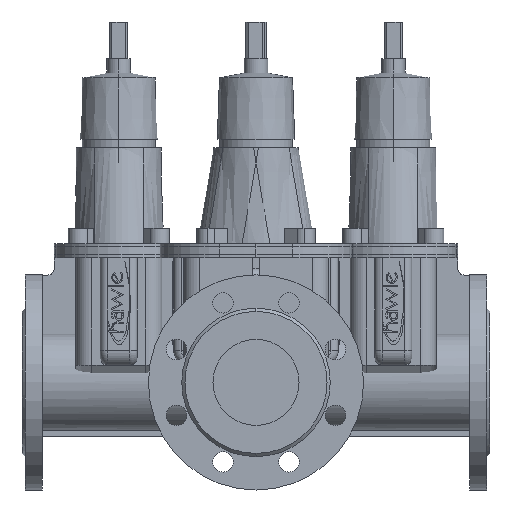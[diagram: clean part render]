
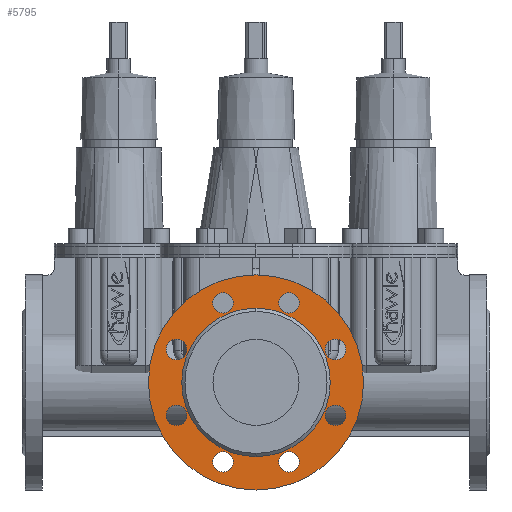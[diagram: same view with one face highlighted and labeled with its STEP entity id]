
A CAD part, left-side view. The second image highlights one B-rep face of the part: STEP entity #5795.
In plain terms, the highlighted planar face has unit normal (-1, 0, 0).
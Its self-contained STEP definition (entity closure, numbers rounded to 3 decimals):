
#5795=ADVANCED_FACE('',(#11086,#11087,#11088,#11089,#11090,#11091,#11092,#11093,#11094,#11095),#11096,.F.);
#11086=FACE_BOUND('',#17828,.T.);
#11087=FACE_BOUND('',#17829,.T.);
#11088=FACE_BOUND('',#17830,.T.);
#11089=FACE_BOUND('',#17831,.T.);
#11090=FACE_BOUND('',#17832,.T.);
#11091=FACE_BOUND('',#17833,.T.);
#11092=FACE_BOUND('',#17834,.T.);
#11093=FACE_BOUND('',#17835,.T.);
#11094=FACE_BOUND('',#17836,.T.);
#11095=FACE_OUTER_BOUND('',#17837,.T.);
#11096=PLANE('',#17838);
#17828=EDGE_LOOP('',(#29182,#29183));
#17829=EDGE_LOOP('',(#29184,#29185));
#17830=EDGE_LOOP('',(#29186,#29187));
#17831=EDGE_LOOP('',(#29188,#29189));
#17832=EDGE_LOOP('',(#29190,#29191));
#17833=EDGE_LOOP('',(#29192,#29193));
#17834=EDGE_LOOP('',(#29194,#29195));
#17835=EDGE_LOOP('',(#29196,#29197));
#17836=EDGE_LOOP('',(#29198,#29199));
#17837=EDGE_LOOP('',(#29200,#29201));
#17838=AXIS2_PLACEMENT_3D('',#29202,#29203,#29204);
#29182=ORIENTED_EDGE('',*,*,#38145,.T.);
#29183=ORIENTED_EDGE('',*,*,#34900,.T.);
#29184=ORIENTED_EDGE('',*,*,#38739,.T.);
#29185=ORIENTED_EDGE('',*,*,#35358,.T.);
#29186=ORIENTED_EDGE('',*,*,#38740,.T.);
#29187=ORIENTED_EDGE('',*,*,#37147,.T.);
#29188=ORIENTED_EDGE('',*,*,#35122,.T.);
#29189=ORIENTED_EDGE('',*,*,#35646,.T.);
#29190=ORIENTED_EDGE('',*,*,#34684,.T.);
#29191=ORIENTED_EDGE('',*,*,#38741,.T.);
#29192=ORIENTED_EDGE('',*,*,#35644,.T.);
#29193=ORIENTED_EDGE('',*,*,#38742,.T.);
#29194=ORIENTED_EDGE('',*,*,#37760,.T.);
#29195=ORIENTED_EDGE('',*,*,#38534,.T.);
#29196=ORIENTED_EDGE('',*,*,#37775,.T.);
#29197=ORIENTED_EDGE('',*,*,#38311,.T.);
#29198=ORIENTED_EDGE('',*,*,#38743,.T.);
#29199=ORIENTED_EDGE('',*,*,#38744,.T.);
#29200=ORIENTED_EDGE('',*,*,#38292,.F.);
#29201=ORIENTED_EDGE('',*,*,#37770,.F.);
#29202=CARTESIAN_POINT('',(3.0,0.0,0.));
#29203=DIRECTION('',(1.0,0.0,0.));
#29204=DIRECTION('',(0.,0.0,-1.0));
#34684=EDGE_CURVE('',#40604,#40608,#40610,.T.);
#34900=EDGE_CURVE('',#40990,#40988,#40991,.T.);
#35122=EDGE_CURVE('',#41365,#41369,#41371,.T.);
#35358=EDGE_CURVE('',#41781,#41779,#41782,.T.);
#35644=EDGE_CURVE('',#42258,#42262,#42264,.T.);
#35646=EDGE_CURVE('',#41369,#41365,#42266,.T.);
#37147=EDGE_CURVE('',#44607,#44605,#44608,.T.);
#37760=EDGE_CURVE('',#45485,#45489,#45491,.T.);
#37770=EDGE_CURVE('',#45503,#45498,#45505,.T.);
#37775=EDGE_CURVE('',#45508,#45512,#45514,.T.);
#38145=EDGE_CURVE('',#40988,#40990,#45997,.T.);
#38292=EDGE_CURVE('',#45498,#45503,#46183,.T.);
#38311=EDGE_CURVE('',#45512,#45508,#46206,.T.);
#38534=EDGE_CURVE('',#45489,#45485,#46494,.T.);
#38739=EDGE_CURVE('',#41779,#41781,#46752,.T.);
#38740=EDGE_CURVE('',#44605,#44607,#46753,.T.);
#38741=EDGE_CURVE('',#40608,#40604,#46754,.T.);
#38742=EDGE_CURVE('',#42262,#42258,#46755,.T.);
#38743=EDGE_CURVE('',#46756,#46757,#46758,.T.);
#38744=EDGE_CURVE('',#46757,#46756,#46759,.T.);
#40604=VERTEX_POINT('',#48950);
#40608=VERTEX_POINT('',#48955);
#40610=CIRCLE('',#48958,9.5);
#40988=VERTEX_POINT('',#49446);
#40990=VERTEX_POINT('',#49449);
#40991=CIRCLE('',#49450,9.5);
#41365=VERTEX_POINT('',#49930);
#41369=VERTEX_POINT('',#49935);
#41371=CIRCLE('',#49938,9.5);
#41779=VERTEX_POINT('',#50470);
#41781=VERTEX_POINT('',#50473);
#41782=CIRCLE('',#50474,9.5);
#42258=VERTEX_POINT('',#51086);
#42262=VERTEX_POINT('',#51091);
#42264=CIRCLE('',#51094,9.5);
#42266=CIRCLE('',#51096,9.5);
#44605=VERTEX_POINT('',#54145);
#44607=VERTEX_POINT('',#54148);
#44608=CIRCLE('',#54149,9.5);
#45485=VERTEX_POINT('',#55304);
#45489=VERTEX_POINT('',#55309);
#45491=CIRCLE('',#55312,9.5);
#45498=VERTEX_POINT('',#55320);
#45503=VERTEX_POINT('',#55326);
#45505=CIRCLE('',#55329,100.0);
#45508=VERTEX_POINT('',#55332);
#45512=VERTEX_POINT('',#55337);
#45514=CIRCLE('',#55340,9.5);
#45997=CIRCLE('',#55990,9.5);
#46183=CIRCLE('',#56226,100.0);
#46206=CIRCLE('',#56256,9.5);
#46494=CIRCLE('',#56643,9.5);
#46752=CIRCLE('',#56982,9.5);
#46753=CIRCLE('',#56983,9.5);
#46754=CIRCLE('',#56984,9.5);
#46755=CIRCLE('',#56985,9.5);
#46756=VERTEX_POINT('',#56986);
#46757=VERTEX_POINT('',#56987);
#46758=CIRCLE('',#56988,40.0);
#46759=CIRCLE('',#56989,40.0);
#48950=CARTESIAN_POINT('',(3.0,-73.91,-40.115));
#48955=CARTESIAN_POINT('',(3.0,-73.91,-21.115));
#48958=AXIS2_PLACEMENT_3D('',#59040,#59041,#59042);
#49446=CARTESIAN_POINT('',(3.0,73.91,21.115));
#49449=CARTESIAN_POINT('',(3.0,73.91,40.115));
#49450=AXIS2_PLACEMENT_3D('',#59337,#59338,#59339);
#49930=CARTESIAN_POINT('',(3.0,-30.615,-83.41));
#49935=CARTESIAN_POINT('',(3.0,-30.615,-64.41));
#49938=AXIS2_PLACEMENT_3D('',#59637,#59638,#59639);
#50470=CARTESIAN_POINT('',(3.0,73.91,-40.115));
#50473=CARTESIAN_POINT('',(3.0,73.91,-21.115));
#50474=AXIS2_PLACEMENT_3D('',#59954,#59955,#59956);
#51086=CARTESIAN_POINT('',(3.0,-73.91,21.115));
#51091=CARTESIAN_POINT('',(3.0,-73.91,40.115));
#51094=AXIS2_PLACEMENT_3D('',#60353,#60354,#60355);
#51096=AXIS2_PLACEMENT_3D('',#60356,#60357,#60358);
#54145=CARTESIAN_POINT('',(3.0,30.615,-83.41));
#54148=CARTESIAN_POINT('',(3.0,30.615,-64.41));
#54149=AXIS2_PLACEMENT_3D('',#62312,#62313,#62314);
#55304=CARTESIAN_POINT('',(3.0,-30.615,64.41));
#55309=CARTESIAN_POINT('',(3.,-30.615,83.41));
#55312=AXIS2_PLACEMENT_3D('',#63099,#63100,#63101);
#55320=CARTESIAN_POINT('',(3.,0.0,-100.0));
#55326=CARTESIAN_POINT('',(3.,0.,100.0));
#55329=AXIS2_PLACEMENT_3D('',#63114,#63115,#63116);
#55332=CARTESIAN_POINT('',(3.0,30.615,64.41));
#55337=CARTESIAN_POINT('',(3.,30.615,83.41));
#55340=AXIS2_PLACEMENT_3D('',#63122,#63123,#63124);
#55990=AXIS2_PLACEMENT_3D('',#63523,#63524,#63525);
#56226=AXIS2_PLACEMENT_3D('',#63708,#63709,#63710);
#56256=AXIS2_PLACEMENT_3D('',#63733,#63734,#63735);
#56643=AXIS2_PLACEMENT_3D('',#63970,#63971,#63972);
#56982=AXIS2_PLACEMENT_3D('',#64204,#64205,#64206);
#56983=AXIS2_PLACEMENT_3D('',#64207,#64208,#64209);
#56984=AXIS2_PLACEMENT_3D('',#64210,#64211,#64212);
#56985=AXIS2_PLACEMENT_3D('',#64213,#64214,#64215);
#56986=CARTESIAN_POINT('',(3.0,0.0,-40.0));
#56987=CARTESIAN_POINT('',(3.0,0.,40.0));
#56988=AXIS2_PLACEMENT_3D('',#64216,#64217,#64218);
#56989=AXIS2_PLACEMENT_3D('',#64219,#64220,#64221);
#59040=CARTESIAN_POINT('',(3.0,-73.91,-30.615));
#59041=DIRECTION('',(1.0,0.0,0.));
#59042=DIRECTION('',(0.,0.0,-1.0));
#59337=CARTESIAN_POINT('',(3.0,73.91,30.615));
#59338=DIRECTION('',(1.0,0.0,0.));
#59339=DIRECTION('',(0.,0.0,-1.0));
#59637=CARTESIAN_POINT('',(3.0,-30.615,-73.91));
#59638=DIRECTION('',(1.0,0.0,0.));
#59639=DIRECTION('',(0.,0.0,-1.0));
#59954=CARTESIAN_POINT('',(3.0,73.91,-30.615));
#59955=DIRECTION('',(1.0,0.0,0.));
#59956=DIRECTION('',(0.,0.0,-1.0));
#60353=CARTESIAN_POINT('',(3.0,-73.91,30.615));
#60354=DIRECTION('',(1.0,0.0,0.));
#60355=DIRECTION('',(0.,0.0,-1.0));
#60356=CARTESIAN_POINT('',(3.0,-30.615,-73.91));
#60357=DIRECTION('',(1.0,0.0,0.));
#60358=DIRECTION('',(0.,0.0,-1.0));
#62312=CARTESIAN_POINT('',(3.0,30.615,-73.91));
#62313=DIRECTION('',(1.0,0.0,0.));
#62314=DIRECTION('',(0.,0.0,-1.0));
#63099=CARTESIAN_POINT('',(3.0,-30.615,73.91));
#63100=DIRECTION('',(1.0,0.0,0.));
#63101=DIRECTION('',(0.,0.0,-1.0));
#63114=CARTESIAN_POINT('',(3.0,0.0,0.));
#63115=DIRECTION('',(1.0,0.0,0.));
#63116=DIRECTION('',(0.,0.0,-1.0));
#63122=CARTESIAN_POINT('',(3.0,30.615,73.91));
#63123=DIRECTION('',(1.0,0.0,0.));
#63124=DIRECTION('',(0.,0.0,-1.0));
#63523=CARTESIAN_POINT('',(3.0,73.91,30.615));
#63524=DIRECTION('',(1.0,0.0,0.));
#63525=DIRECTION('',(0.,0.0,-1.0));
#63708=CARTESIAN_POINT('',(3.0,0.0,0.));
#63709=DIRECTION('',(1.0,0.0,0.));
#63710=DIRECTION('',(0.,0.0,-1.0));
#63733=CARTESIAN_POINT('',(3.0,30.615,73.91));
#63734=DIRECTION('',(1.0,0.0,0.));
#63735=DIRECTION('',(0.,0.0,-1.0));
#63970=CARTESIAN_POINT('',(3.0,-30.615,73.91));
#63971=DIRECTION('',(1.0,0.0,0.));
#63972=DIRECTION('',(0.,0.0,-1.0));
#64204=CARTESIAN_POINT('',(3.0,73.91,-30.615));
#64205=DIRECTION('',(1.0,0.0,0.));
#64206=DIRECTION('',(0.,0.0,-1.0));
#64207=CARTESIAN_POINT('',(3.0,30.615,-73.91));
#64208=DIRECTION('',(1.0,0.0,0.));
#64209=DIRECTION('',(0.,0.0,-1.0));
#64210=CARTESIAN_POINT('',(3.0,-73.91,-30.615));
#64211=DIRECTION('',(1.0,0.0,0.));
#64212=DIRECTION('',(0.,0.0,-1.0));
#64213=CARTESIAN_POINT('',(3.0,-73.91,30.615));
#64214=DIRECTION('',(1.0,0.0,0.));
#64215=DIRECTION('',(0.,0.0,-1.0));
#64216=CARTESIAN_POINT('',(3.0,0.0,0.));
#64217=DIRECTION('',(1.0,0.0,0.));
#64218=DIRECTION('',(0.,0.0,-1.0));
#64219=CARTESIAN_POINT('',(3.0,0.0,0.));
#64220=DIRECTION('',(1.0,0.0,0.));
#64221=DIRECTION('',(0.,0.0,-1.0));
